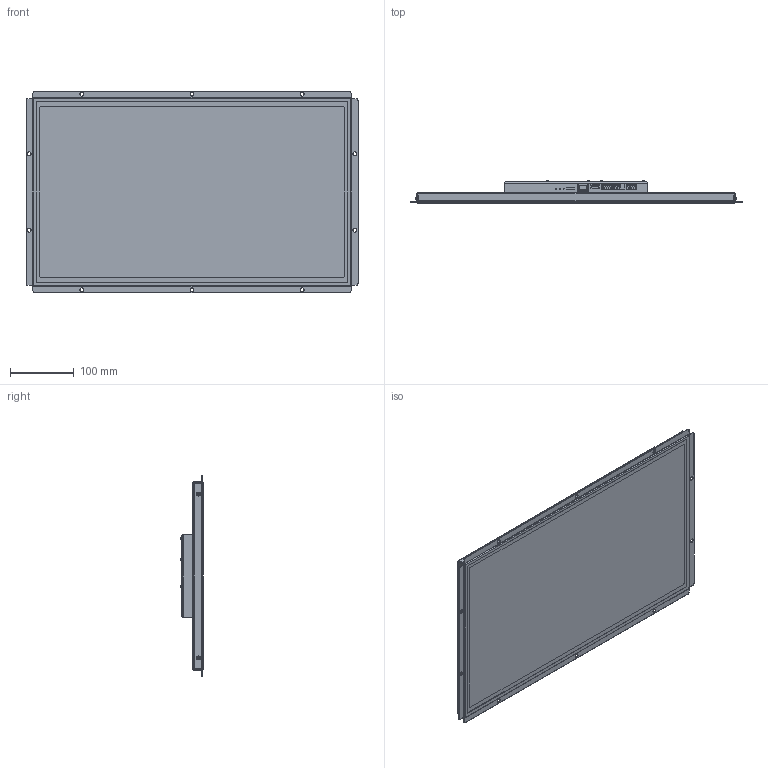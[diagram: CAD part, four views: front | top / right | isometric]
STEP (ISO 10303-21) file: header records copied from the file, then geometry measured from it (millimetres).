
FILE_DESCRIPTION(/* description */ ('fel4B-02A-21,5 Zoll LT-Line'),/* implementation_level */ '2;1');
FILE_NAME(/* name */ 'Z:\Teildatei Inventor\Inventor-Bibliothek\0000 0000 Bauteile\Bildschirme\TFT 21_5 Zoll\00004949 fel4B-02A-21,5 Zoll LT-Line.stp',/* time_stamp */ '2019-11-04T11:12:47+01:00',/* author */ ('Markus Lahey'),/* organization */ (''),/* preprocessor_version */ 'ST-DEVELOPER v17.2',/* originating_system */ 'Autodesk Inventor 2019',/* authorisation */ '');
FILE_SCHEMA (('AUTOMOTIVE_DESIGN { 1 0 10303 214 3 1 1 }'));
Length unit declared in the file: millimetre
Products named in the file (1): 00004949
Bounding box: 520 x 34.65 x 316 mm (x, y, z)
Volume: 2145053.9 mm3; surface area: 792634.2 mm2
Topology: 29 solids, 29 shells, 1237 faces, 3174 edges, 2065 vertices
Faces by surface type: plane 783, cylinder 213, bspline 139, cone 84, torus 14, sphere 4
Full cylindrical faces by diameter (mm): 0.4 x11, 1.5 x3, 2.459 x10, 3 x18, 3.1 x2, 3.2 x4, 3.45 x4, 4.4 x4, 5.42 x4, 5.7 x14, 6 x10
Entity records: 40149 total; most frequent: CARTESIAN_POINT 9432, ORIENTED_EDGE 6304, DIRECTION 5568, EDGE_CURVE 3152, VERTEX_POINT 2065, LINE 2046, VECTOR 2046, AXIS2_PLACEMENT_3D 1761
